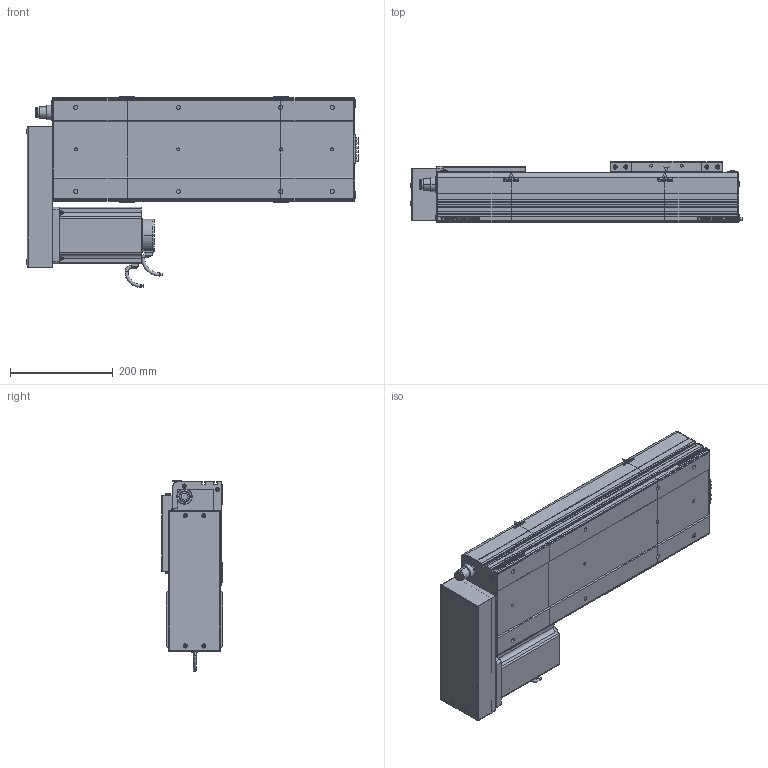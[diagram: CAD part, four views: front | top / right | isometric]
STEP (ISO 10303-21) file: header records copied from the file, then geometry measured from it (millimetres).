
FILE_DESCRIPTION (( 'STEP AP214' ), '1' );
FILE_NAME ('D20 CSH BR S300.STEP', '2010-06-30T07:54:48', ( 'Conseil Régional Haute-Normandie' ), ( 'Conseil Régional Haute-Normandie' ), 'SwSTEP 2.0', 'SolidWorks 2010', '' );
FILE_SCHEMA (( 'AUTOMOTIVE_DESIGN' ));
Length unit declared in the file: millimetre
Products named in the file (31): Tail D20+100_Default; Couvercle_Default; vis M5 L47_Default; Corp Tail D20+100_Default; clavette; Conecteur_Default; Conecteur2_Default; Plaque de Bout Tail D20_Default; Corp D20 S300_Default; codeur 110BLDC170A-630x; corps 110BLDC170A-630x; Plaque De Serrage D20_Default; Moteur motionking 110BLDC170A-640x; Plaque De Serrage Head BR D20_Default; Corp S300_Default; avant 110BLDC170A-630x; Couvercle S300_Default; vis M5 L30_Default; Couvercle Head BR_Default; Corp Head BR D20_Default; Support moteur BR D20_Default; Chariot D20_Default; Plaque de Bout Head BR D20_Default; Support Chariot D20_Default; Head D20 BR_Default; Glissiere_Default; Cache Moteur BR D20_Default; ecrou_Default; vis M5 L15_Default; D20 CSH BR S300
Assembly tree (60 placements, depth 4):
  D20 CSH BR S300
    Head D20 BR_Default
      ecrou_Default  x4
      vis M5 L15_Default  x8
      vis M5 L47_Default  x4
      Moteur motionking 110BLDC170A-640x
        avant 110BLDC170A-630x
        corps 110BLDC170A-630x
        codeur 110BLDC170A-630x
        Conecteur_Default
        Conecteur2_Default
        clavette
      Corp Head BR D20_Default
      Couvercle Head BR_Default
      Cache Moteur BR D20_Default
      vis M5 L30_Default  x4
      Plaque De Serrage Head BR D20_Default
      Plaque de Bout Head BR D20_Default
      Support moteur BR D20_Default
    Tail D20+100_Default
      Plaque De Serrage D20_Default
      Couvercle_Default
      vis M5 L15_Default  x6
      Corp Tail D20+100_Default
      Plaque de Bout Tail D20_Default
    Corp D20 S300_Default
      Corp S300_Default
      Couvercle S300_Default
    Chariot D20_Default
      vis M5 L15_Default  x8
      Chariot D20_Default
      Glissiere_Default
      Support Chariot D20_Default
Bounding box: 647.7 x 120 x 372 mm (x, y, z)
Volume: 6753962.8 mm3; surface area: 1309923.1 mm2
Topology: 97 solids, 97 shells, 3541 faces, 8915 edges, 5805 vertices
Faces by surface type: plane 2000, bspline 806, cylinder 589, torus 83, cone 63
Entity records: 156209 total; most frequent: CARTESIAN_POINT 81765, ORIENTED_EDGE 14778, DIRECTION 10983, EDGE_CURVE 7389, VERTEX_POINT 4893, LINE 4865, VECTOR 4865, EDGE_LOOP 3132
